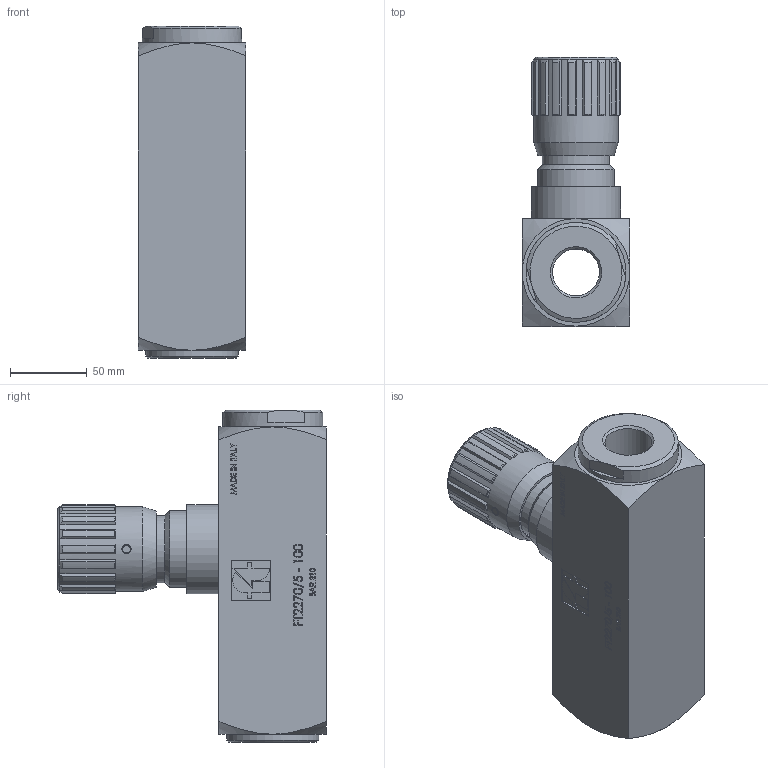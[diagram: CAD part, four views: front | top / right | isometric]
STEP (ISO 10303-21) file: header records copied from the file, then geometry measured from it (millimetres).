
FILE_DESCRIPTION (( 'STEP AP214' ), '1' );
FILE_NAME ('FT2270_5-100.STEP', '2015-03-31T15:32:52', ( 'cperuzzotti' ), ( 'Hewlett-Packard Company' ), 'SwSTEP 2.0', 'SolidWorks 2014', '' );
FILE_SCHEMA (( 'AUTOMOTIVE_DESIGN' ));
Length unit declared in the file: millimetre
Products named in the file (1): FT2270_5-100
Bounding box: 70 x 175 x 216 mm (x, y, z)
Surface area: 111212.4 mm2 (no closed solid volume)
Topology: 0 solids, 25 shells, 436 faces, 1825 edges, 1363 vertices
Faces by surface type: plane 274, cylinder 55, bspline 54, cone 52, torus 1
Full cylindrical faces by diameter (mm): 5.174 x1, 6 x1, 30.5 x1, 31.9 x1, 43.8 x1, 50 x1, 54.5 x1, 55 x1, 56 x1, 58 x1, 59 x1, 60 x1, 65 x1
Entity records: 28525 total; most frequent: CARTESIAN_POINT 9739, ORIENTED_EDGE 2663, DIRECTION 2496, EDGE_CURVE 1797, VERTEX_POINT 1357, VECTOR 1286, LINE 1286, AXIS2_PLACEMENT_3D 605
